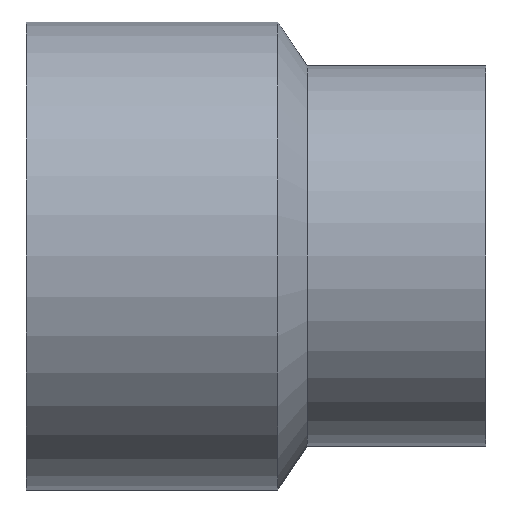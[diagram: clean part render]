
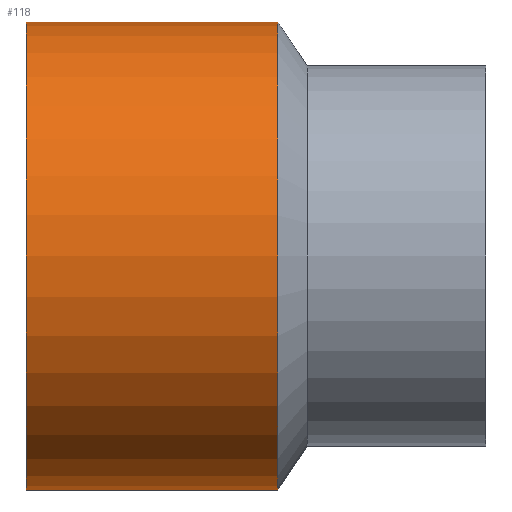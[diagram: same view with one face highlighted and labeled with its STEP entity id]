
A CAD part, front view. The second image highlights one B-rep face of the part: STEP entity #118.
In plain terms, the highlighted cylindrical face has radius 80 mm (diameter 160 mm), a full revolution.
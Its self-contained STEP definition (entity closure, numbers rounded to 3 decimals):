
#18=CYLINDRICAL_SURFACE('',#134,80.);
#25=FACE_BOUND('',#49,.T.);
#35=FACE_OUTER_BOUND('',#48,.T.);
#48=EDGE_LOOP('',(#98));
#49=EDGE_LOOP('',(#99));
#65=CIRCLE('',#133,80.);
#66=CIRCLE('',#135,80.);
#75=VERTEX_POINT('',#199);
#76=VERTEX_POINT('',#202);
#85=EDGE_CURVE('',#75,#75,#65,.T.);
#86=EDGE_CURVE('',#76,#76,#66,.T.);
#98=ORIENTED_EDGE('',*,*,#85,.T.);
#99=ORIENTED_EDGE('',*,*,#86,.F.);
#118=ADVANCED_FACE('',(#35,#25),#18,.T.);
#133=AXIS2_PLACEMENT_3D('',#200,#161,#162);
#134=AXIS2_PLACEMENT_3D('',#201,#163,#164);
#135=AXIS2_PLACEMENT_3D('',#203,#165,#166);
#161=DIRECTION('center_axis',(-1.,0.,0.));
#162=DIRECTION('ref_axis',(0.,0.,1.));
#163=DIRECTION('center_axis',(-1.,0.,0.));
#164=DIRECTION('ref_axis',(0.,-1.,0.));
#165=DIRECTION('center_axis',(-1.,0.,0.));
#166=DIRECTION('ref_axis',(0.,0.,1.));
#199=CARTESIAN_POINT('',(7.5,-80.,0.));
#200=CARTESIAN_POINT('Origin',(7.5,0.,0.));
#201=CARTESIAN_POINT('Origin',(-35.5,0.,0.));
#202=CARTESIAN_POINT('',(-78.5,-80.,0.));
#203=CARTESIAN_POINT('Origin',(-78.5,0.,0.));
